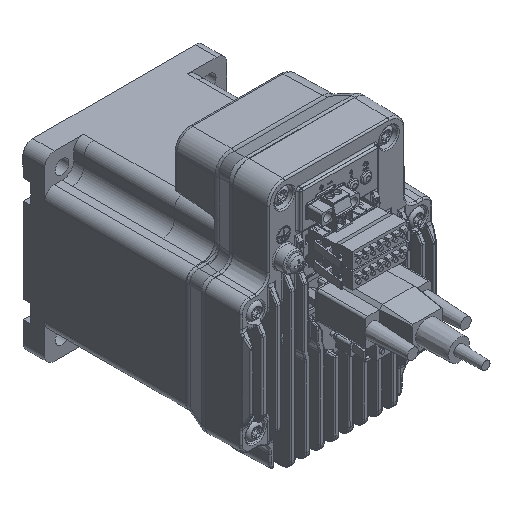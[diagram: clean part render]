
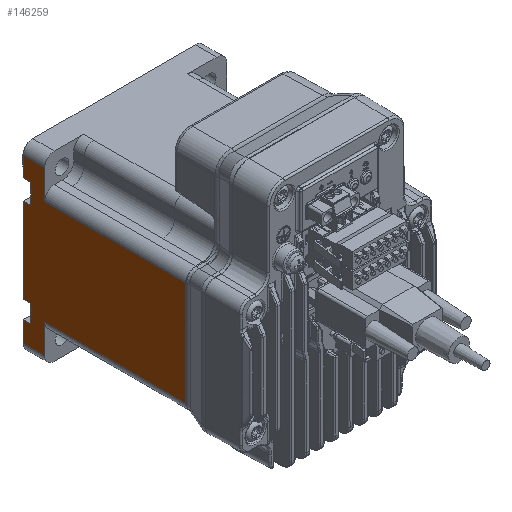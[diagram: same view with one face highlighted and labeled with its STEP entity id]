
A CAD part, isometric view. The second image highlights one B-rep face of the part: STEP entity #146259.
In plain terms, the highlighted planar face has unit normal (-1, 0, 0).
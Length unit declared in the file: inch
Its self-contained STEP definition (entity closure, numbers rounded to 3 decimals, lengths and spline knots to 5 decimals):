
#142500=CARTESIAN_POINT('',(-1.695,4.14235,-1.131));
#142501=VERTEX_POINT('',#142500);
#142508=CARTESIAN_POINT('',(-1.695,3.99635,-1.131));
#142509=VERTEX_POINT('',#142508);
#142510=CARTESIAN_POINT('',(-1.695,3.91635,-1.131));
#142511=DIRECTION('',(0.,1.,0.));
#142512=VECTOR('',#142511,1.);
#142513=LINE('',#142510,#142512);
#142514=EDGE_CURVE('',#142509,#142501,#142513,.T.);
#142548=CARTESIAN_POINT('',(-1.695,3.99635,-0.801));
#142549=VERTEX_POINT('',#142548);
#142550=CARTESIAN_POINT('',(-1.695,3.99635,-0.0025));
#142551=DIRECTION('',(0.,0.,1.));
#142552=VECTOR('',#142551,1.);
#142553=LINE('',#142550,#142552);
#142554=EDGE_CURVE('',#142509,#142549,#142553,.T.);
#143122=CARTESIAN_POINT('',(-1.695,4.14235,1.15359));
#143123=VERTEX_POINT('',#143122);
#143124=CARTESIAN_POINT('',(-1.695,3.99635,1.15104));
#143125=VERTEX_POINT('',#143124);
#143126=CARTESIAN_POINT('',(-1.695,3.79821,1.14758));
#143127=DIRECTION('',(0.,-1.,-0.017));
#143128=VECTOR('',#143127,1.);
#143129=LINE('',#143126,#143128);
#143130=EDGE_CURVE('',#143123,#143125,#143129,.T.);
#143161=CARTESIAN_POINT('',(-1.695,3.99635,0.78096));
#143162=VERTEX_POINT('',#143161);
#143163=CARTESIAN_POINT('',(-1.695,4.14235,0.77841));
#143164=VERTEX_POINT('',#143163);
#143165=CARTESIAN_POINT('',(-1.695,3.83201,0.78382));
#143166=DIRECTION('',(0.,1.,-0.017));
#143167=VECTOR('',#143166,1.);
#143168=LINE('',#143165,#143167);
#143169=EDGE_CURVE('',#143162,#143164,#143168,.T.);
#145029=CARTESIAN_POINT('',(-1.695,3.74235,0.971));
#145030=VERTEX_POINT('',#145029);
#145038=CARTESIAN_POINT('',(-1.69508,1.11882,0.97109));
#145039=VERTEX_POINT('',#145038);
#145040=CARTESIAN_POINT('',(-1.695,1.22207,0.971));
#145041=DIRECTION('',(0.,1.,0.));
#145042=VECTOR('',#145041,39.37008);
#145043=LINE('',#145040,#145042);
#145044=EDGE_CURVE('',#145039,#145030,#145043,.T.);
#145072=CARTESIAN_POINT('',(-1.695,3.74235,-0.971));
#145073=VERTEX_POINT('',#145072);
#145089=CARTESIAN_POINT('',(-1.69508,1.11882,-0.97109));
#145090=VERTEX_POINT('',#145089);
#145098=CARTESIAN_POINT('',(-1.695,3.65135,-0.971));
#145099=DIRECTION('',(0.,-1.,0.));
#145100=VECTOR('',#145099,39.37008);
#145101=LINE('',#145098,#145100);
#145102=EDGE_CURVE('',#145073,#145090,#145101,.T.);
#145344=CARTESIAN_POINT('',(-1.695,4.14235,-1.515));
#145345=VERTEX_POINT('',#145344);
#145354=CARTESIAN_POINT('',(-1.695,3.74235,-1.515));
#145355=VERTEX_POINT('',#145354);
#145363=CARTESIAN_POINT('',(-1.695,3.78135,-1.515));
#145364=DIRECTION('',(0.,1.,0.));
#145365=VECTOR('',#145364,39.37008);
#145366=LINE('',#145363,#145365);
#145367=EDGE_CURVE('',#145355,#145345,#145366,.T.);
#145385=CARTESIAN_POINT('',(-1.695,4.14235,1.515));
#145386=VERTEX_POINT('',#145385);
#145394=CARTESIAN_POINT('',(-1.695,3.74235,1.515));
#145395=VERTEX_POINT('',#145394);
#145396=CARTESIAN_POINT('',(-1.695,3.78135,1.515));
#145397=DIRECTION('',(0.,1.,0.));
#145398=VECTOR('',#145397,39.37008);
#145399=LINE('',#145396,#145398);
#145400=EDGE_CURVE('',#145395,#145386,#145399,.T.);
#146031=CARTESIAN_POINT('',(-1.695,3.74235,-0.4855));
#146032=DIRECTION('',(0.,0.,1.));
#146033=VECTOR('',#146032,1.);
#146034=LINE('',#146031,#146033);
#146035=EDGE_CURVE('',#145355,#145073,#146034,.T.);
#146102=CARTESIAN_POINT('',(-1.695,3.74235,-0.4855));
#146103=DIRECTION('',(0.,0.,1.));
#146104=VECTOR('',#146103,1.);
#146105=LINE('',#146102,#146104);
#146106=EDGE_CURVE('',#145030,#145395,#146105,.T.);
#146133=CARTESIAN_POINT('',(-1.695,4.14235,-0.4855));
#146134=DIRECTION('',(0.,0.,1.));
#146135=VECTOR('',#146134,1.);
#146136=LINE('',#146133,#146135);
#146137=EDGE_CURVE('',#143123,#145386,#146136,.T.);
#146159=CARTESIAN_POINT('',(-1.695,4.14235,-0.4855));
#146160=DIRECTION('',(0.,0.,1.));
#146161=VECTOR('',#146160,1.);
#146162=LINE('',#146159,#146161);
#146163=EDGE_CURVE('',#145345,#142501,#146162,.T.);
#146175=CARTESIAN_POINT('',(-1.695,4.14235,-0.801));
#146176=VERTEX_POINT('',#146175);
#146183=CARTESIAN_POINT('',(-1.695,4.14235,-0.4855));
#146184=DIRECTION('',(0.,0.,1.));
#146185=VECTOR('',#146184,1.);
#146186=LINE('',#146183,#146185);
#146187=EDGE_CURVE('',#146176,#143164,#146186,.T.);
#146221=ORIENTED_EDGE('',*,*,#143169,.T.);
#146222=ORIENTED_EDGE('',*,*,#146187,.F.);
#146223=CARTESIAN_POINT('',(-1.695,3.91635,-0.801));
#146224=DIRECTION('',(0.,-1.,0.));
#146225=VECTOR('',#146224,1.);
#146226=LINE('',#146223,#146225);
#146227=EDGE_CURVE('',#146176,#142549,#146226,.T.);
#146228=ORIENTED_EDGE('',*,*,#146227,.T.);
#146229=ORIENTED_EDGE('',*,*,#142554,.F.);
#146230=ORIENTED_EDGE('',*,*,#142514,.T.);
#146231=ORIENTED_EDGE('',*,*,#146163,.F.);
#146232=ORIENTED_EDGE('',*,*,#145367,.F.);
#146233=ORIENTED_EDGE('',*,*,#146035,.T.);
#146234=ORIENTED_EDGE('',*,*,#145102,.T.);
#146235=CARTESIAN_POINT('',(-1.695,1.12339,-0.4855));
#146236=DIRECTION('',(0.,0.,-1.));
#146237=VECTOR('',#146236,1.);
#146238=LINE('',#146235,#146237);
#146239=EDGE_CURVE('',#145039,#145090,#146238,.T.);
#146240=ORIENTED_EDGE('',*,*,#146239,.F.);
#146241=ORIENTED_EDGE('',*,*,#145044,.T.);
#146242=ORIENTED_EDGE('',*,*,#146106,.T.);
#146243=ORIENTED_EDGE('',*,*,#145400,.T.);
#146244=ORIENTED_EDGE('',*,*,#146137,.F.);
#146245=ORIENTED_EDGE('',*,*,#143130,.T.);
#146246=CARTESIAN_POINT('',(-1.695,3.99635,0.9635));
#146247=DIRECTION('',(0.,0.,-1.));
#146248=VECTOR('',#146247,1.);
#146249=LINE('',#146246,#146248);
#146250=EDGE_CURVE('',#143125,#143162,#146249,.T.);
#146251=ORIENTED_EDGE('',*,*,#146250,.T.);
#146252=EDGE_LOOP('',(#146221,#146222,#146228,#146229,#146230,#146231,#146232,#146233,#146234,#146240,#146241,#146242,#146243,#146244,#146245,#146251));
#146253=FACE_OUTER_BOUND('',#146252,.T.);
#146254=CARTESIAN_POINT('',(-1.695,3.65135,-0.971));
#146255=DIRECTION('',(-1.,0.,0.));
#146256=DIRECTION('',(0.,0.,-1.));
#146257=AXIS2_PLACEMENT_3D('',#146254,#146255,#146256);
#146258=PLANE('',#146257);
#146259=ADVANCED_FACE('',(#146253),#146258,.T.);
